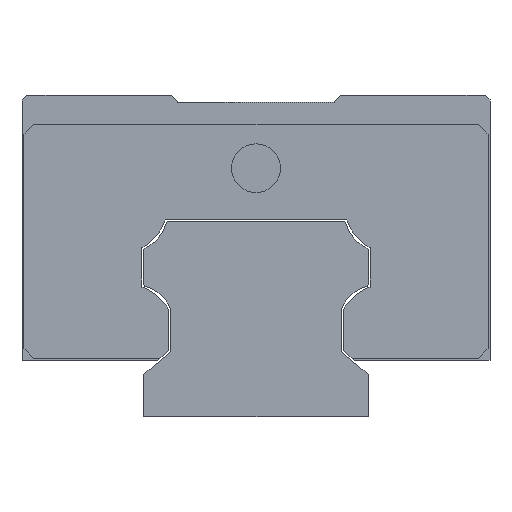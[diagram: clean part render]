
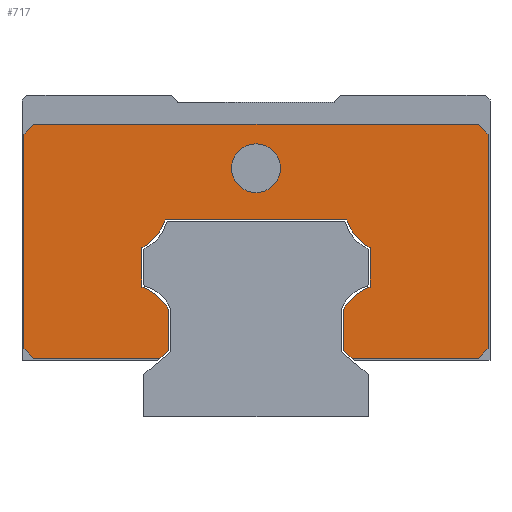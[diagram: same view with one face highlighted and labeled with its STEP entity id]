
A CAD part, left-side view. The second image highlights one B-rep face of the part: STEP entity #717.
In plain terms, the highlighted planar face has unit normal (-1, 0, 0).
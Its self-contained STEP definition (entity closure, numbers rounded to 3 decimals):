
#548=FACE_BOUND('',#1007,.T.);
#549=FACE_BOUND('',#1008,.T.);
#717=ADVANCED_FACE('',(#548,#549),#839,.F.);
#839=PLANE('',#2689);
#1007=EDGE_LOOP('',(#1362));
#1008=EDGE_LOOP('',(#1363,#1364,#1365,#1366,#1367,#1368,#1369,#1370,#1371,
#1372,#1373,#1374,#1375,#1376,#1377,#1378,#1379,#1380,#1381,#1382));
#1180=CIRCLE('',#2673,5.2);
#1181=CIRCLE('',#2676,5.2);
#1182=CIRCLE('',#2679,5.2);
#1183=CIRCLE('',#2682,5.2);
#1184=CIRCLE('',#2688,2.5);
#1362=ORIENTED_EDGE('',*,*,#2095,.F.);
#1363=ORIENTED_EDGE('',*,*,#2093,.F.);
#1364=ORIENTED_EDGE('',*,*,#2096,.T.);
#1365=ORIENTED_EDGE('',*,*,#2088,.F.);
#1366=ORIENTED_EDGE('',*,*,#2087,.F.);
#1367=ORIENTED_EDGE('',*,*,#2080,.F.);
#1368=ORIENTED_EDGE('',*,*,#2074,.F.);
#1369=ORIENTED_EDGE('',*,*,#2073,.F.);
#1370=ORIENTED_EDGE('',*,*,#2065,.F.);
#1371=ORIENTED_EDGE('',*,*,#2064,.F.);
#1372=ORIENTED_EDGE('',*,*,#2056,.F.);
#1373=ORIENTED_EDGE('',*,*,#2055,.F.);
#1374=ORIENTED_EDGE('',*,*,#2047,.F.);
#1375=ORIENTED_EDGE('',*,*,#2045,.F.);
#1376=ORIENTED_EDGE('',*,*,#2040,.F.);
#1377=ORIENTED_EDGE('',*,*,#2032,.F.);
#1378=ORIENTED_EDGE('',*,*,#2097,.T.);
#1379=ORIENTED_EDGE('',*,*,#2028,.F.);
#1380=ORIENTED_EDGE('',*,*,#2098,.T.);
#1381=ORIENTED_EDGE('',*,*,#2024,.F.);
#1382=ORIENTED_EDGE('',*,*,#2099,.T.);
#1828=VERTEX_POINT('',#3521);
#1829=VERTEX_POINT('',#3523);
#1832=VERTEX_POINT('',#3530);
#1833=VERTEX_POINT('',#3532);
#1836=VERTEX_POINT('',#3539);
#1837=VERTEX_POINT('',#3541);
#1838=VERTEX_POINT('',#3545);
#1844=VERTEX_POINT('',#3559);
#1849=VERTEX_POINT('',#3571);
#1850=VERTEX_POINT('',#3575);
#1855=VERTEX_POINT('',#3588);
#1856=VERTEX_POINT('',#3592);
#1861=VERTEX_POINT('',#3605);
#1862=VERTEX_POINT('',#3609);
#1867=VERTEX_POINT('',#3622);
#1868=VERTEX_POINT('',#3626);
#1872=VERTEX_POINT('',#3636);
#1878=VERTEX_POINT('',#3650);
#1882=VERTEX_POINT('',#3659);
#1883=VERTEX_POINT('',#3661);
#1884=VERTEX_POINT('',#3665);
#2024=EDGE_CURVE('',#1828,#1829,#2297,.T.);
#2028=EDGE_CURVE('',#1832,#1833,#2301,.T.);
#2032=EDGE_CURVE('',#1836,#1837,#2305,.T.);
#2040=EDGE_CURVE('',#1837,#1838,#2313,.T.);
#2045=EDGE_CURVE('',#1838,#1844,#2318,.T.);
#2047=EDGE_CURVE('',#1844,#1849,#1180,.T.);
#2055=EDGE_CURVE('',#1849,#1850,#2326,.T.);
#2056=EDGE_CURVE('',#1850,#1855,#1181,.T.);
#2064=EDGE_CURVE('',#1855,#1856,#2334,.T.);
#2065=EDGE_CURVE('',#1856,#1861,#1182,.T.);
#2073=EDGE_CURVE('',#1861,#1862,#2342,.T.);
#2074=EDGE_CURVE('',#1862,#1867,#1183,.T.);
#2080=EDGE_CURVE('',#1867,#1868,#2348,.T.);
#2087=EDGE_CURVE('',#1868,#1872,#2355,.T.);
#2088=EDGE_CURVE('',#1872,#1878,#2356,.T.);
#2093=EDGE_CURVE('',#1882,#1883,#2361,.T.);
#2095=EDGE_CURVE('',#1884,#1884,#1184,.T.);
#2096=EDGE_CURVE('',#1882,#1878,#2363,.T.);
#2097=EDGE_CURVE('',#1836,#1833,#2364,.T.);
#2098=EDGE_CURVE('',#1832,#1829,#2365,.T.);
#2099=EDGE_CURVE('',#1828,#1883,#2366,.T.);
#2297=LINE('',#3522,#2481);
#2301=LINE('',#3531,#2485);
#2305=LINE('',#3540,#2489);
#2313=LINE('',#3556,#2497);
#2318=LINE('',#3566,#2502);
#2326=LINE('',#3585,#2510);
#2334=LINE('',#3602,#2518);
#2342=LINE('',#3619,#2526);
#2348=LINE('',#3633,#2532);
#2355=LINE('',#3647,#2539);
#2356=LINE('',#3649,#2540);
#2361=LINE('',#3660,#2545);
#2363=LINE('',#3666,#2547);
#2364=LINE('',#3667,#2548);
#2365=LINE('',#3668,#2549);
#2366=LINE('',#3669,#2550);
#2481=VECTOR('',#2898,1.);
#2485=VECTOR('',#2904,1.);
#2489=VECTOR('',#2910,1.);
#2497=VECTOR('',#2920,1.);
#2502=VECTOR('',#2927,1.);
#2510=VECTOR('',#2943,1.);
#2518=VECTOR('',#2957,1.);
#2526=VECTOR('',#2971,1.);
#2532=VECTOR('',#2983,1.);
#2539=VECTOR('',#2992,1.);
#2540=VECTOR('',#2995,1.);
#2545=VECTOR('',#3002,1.);
#2547=VECTOR('',#3008,1.);
#2548=VECTOR('',#3009,1.);
#2549=VECTOR('',#3010,1.);
#2550=VECTOR('',#3011,1.);
#2673=AXIS2_PLACEMENT_3D('',#3570,#2932,#2933);
#2676=AXIS2_PLACEMENT_3D('',#3587,#2946,#2947);
#2679=AXIS2_PLACEMENT_3D('',#3604,#2960,#2961);
#2682=AXIS2_PLACEMENT_3D('',#3621,#2974,#2975);
#2688=AXIS2_PLACEMENT_3D('',#3664,#3006,#3007);
#2689=AXIS2_PLACEMENT_3D('',#3670,#3012,#3013);
#2898=DIRECTION('',(0.,-1.,0.));
#2904=DIRECTION('',(0.,0.,-1.));
#2910=DIRECTION('',(0.,1.,0.));
#2920=DIRECTION('',(0.,0.766,0.643));
#2927=DIRECTION('',(0.,0.,1.));
#2932=DIRECTION('',(1.,0.,0.));
#2933=DIRECTION('',(0.,1.,0.));
#2943=DIRECTION('',(0.,0.,1.));
#2946=DIRECTION('',(1.,0.,0.));
#2947=DIRECTION('',(0.,1.,0.));
#2957=DIRECTION('',(0.,1.,0.));
#2960=DIRECTION('',(1.,0.,0.));
#2961=DIRECTION('',(0.,-1.,0.));
#2971=DIRECTION('',(0.,0.,-1.));
#2974=DIRECTION('',(1.,0.,0.));
#2975=DIRECTION('',(0.,-1.,0.));
#2983=DIRECTION('',(0.,0.,-1.));
#2992=DIRECTION('',(0.,0.766,-0.643));
#2995=DIRECTION('',(0.,1.,0.));
#3002=DIRECTION('',(0.,0.,1.));
#3006=DIRECTION('',(-1.,0.,0.));
#3007=DIRECTION('',(0.,1.,0.));
#3008=DIRECTION('',(0.,-0.707,-0.707));
#3009=DIRECTION('',(0.,-0.707,0.707));
#3010=DIRECTION('',(0.,0.707,0.707));
#3011=DIRECTION('',(0.,0.707,-0.707));
#3012=DIRECTION('',(1.,0.,0.));
#3013=DIRECTION('',(0.,0.,-1.));
#3521=CARTESIAN_POINT('',(-40.5,22.8,30.));
#3522=CARTESIAN_POINT('',(-40.5,23.8,30.));
#3523=CARTESIAN_POINT('',(-40.5,-22.8,30.));
#3530=CARTESIAN_POINT('',(-40.5,-23.8,29.));
#3531=CARTESIAN_POINT('',(-40.5,-23.8,30.));
#3532=CARTESIAN_POINT('',(-40.5,-23.8,7.));
#3539=CARTESIAN_POINT('',(-40.5,-22.8,6.));
#3540=CARTESIAN_POINT('',(-40.5,-23.8,6.));
#3541=CARTESIAN_POINT('',(-40.5,-9.865,6.));
#3545=CARTESIAN_POINT('',(-40.5,-8.959,6.76));
#3556=CARTESIAN_POINT('',(-40.5,-9.865,6.));
#3559=CARTESIAN_POINT('',(-40.5,-8.959,11.018));
#3566=CARTESIAN_POINT('',(-40.5,-8.959,6.76));
#3570=CARTESIAN_POINT('',(-40.5,-13.468,8.428));
#3571=CARTESIAN_POINT('',(-40.5,-11.7,13.318));
#3575=CARTESIAN_POINT('',(-40.5,-11.7,17.332));
#3585=CARTESIAN_POINT('',(-40.5,-11.7,13.318));
#3587=CARTESIAN_POINT('',(-40.5,-14.213,21.884));
#3588=CARTESIAN_POINT('',(-40.5,-9.293,20.2));
#3592=CARTESIAN_POINT('',(-40.5,9.293,20.2));
#3602=CARTESIAN_POINT('',(-40.5,-9.293,20.2));
#3604=CARTESIAN_POINT('',(-40.5,14.213,21.884));
#3605=CARTESIAN_POINT('',(-40.5,11.7,17.332));
#3609=CARTESIAN_POINT('',(-40.5,11.7,13.318));
#3619=CARTESIAN_POINT('',(-40.5,11.7,17.332));
#3621=CARTESIAN_POINT('',(-40.5,13.468,8.428));
#3622=CARTESIAN_POINT('',(-40.5,8.959,11.018));
#3626=CARTESIAN_POINT('',(-40.5,8.959,6.76));
#3633=CARTESIAN_POINT('',(-40.5,8.959,11.018));
#3636=CARTESIAN_POINT('',(-40.5,9.865,6.));
#3647=CARTESIAN_POINT('',(-40.5,8.959,6.76));
#3649=CARTESIAN_POINT('',(-40.5,9.865,6.));
#3650=CARTESIAN_POINT('',(-40.5,22.8,6.));
#3659=CARTESIAN_POINT('',(-40.5,23.8,7.));
#3660=CARTESIAN_POINT('',(-40.5,23.8,6.));
#3661=CARTESIAN_POINT('',(-40.5,23.8,29.));
#3664=CARTESIAN_POINT('',(-40.5,0.,25.5));
#3665=CARTESIAN_POINT('',(-40.5,2.5,25.5));
#3666=CARTESIAN_POINT('',(-40.5,22.8,6.));
#3667=CARTESIAN_POINT('',(-40.5,-23.8,7.));
#3668=CARTESIAN_POINT('',(-40.5,-22.8,30.));
#3669=CARTESIAN_POINT('',(-40.5,23.8,29.));
#3670=CARTESIAN_POINT('',(-40.5,-13.468,8.428));
